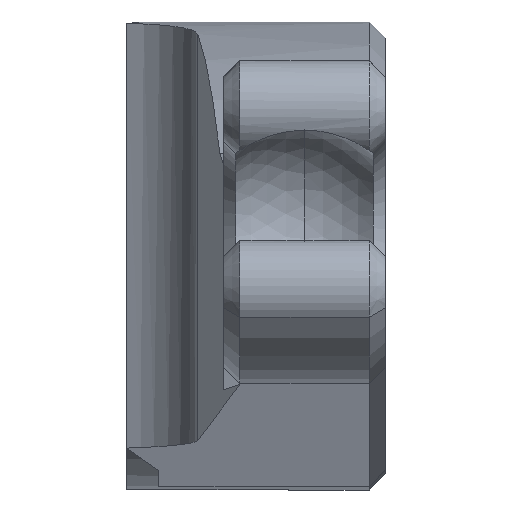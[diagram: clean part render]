
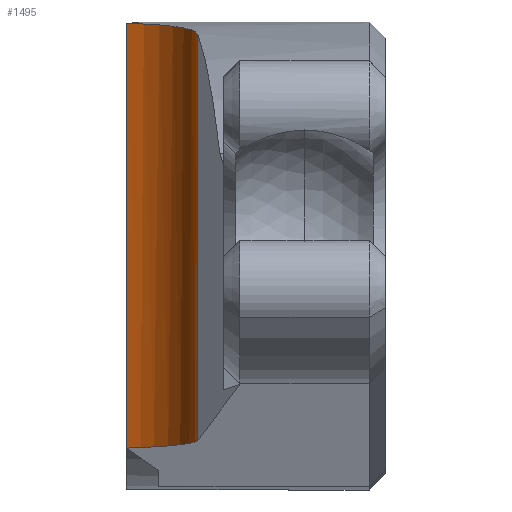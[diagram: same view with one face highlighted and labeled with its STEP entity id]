
A CAD part, front view. The second image highlights one B-rep face of the part: STEP entity #1495.
In plain terms, the highlighted cylindrical face has radius 3.518 mm (diameter 7.036 mm), a partial arc.
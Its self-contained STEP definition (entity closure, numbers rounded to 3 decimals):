
#11 = CARTESIAN_POINT ( 'NONE',  ( 9.993, -122.252, -3.573 ) ) ;
#21 = EDGE_CURVE ( 'NONE', #1631, #30, #1093, .T. ) ;
#30 = VERTEX_POINT ( 'NONE', #247 ) ;
#155 = CARTESIAN_POINT ( 'NONE',  ( 10.734, -123.144, -3.66 ) ) ;
#174 = EDGE_CURVE ( 'NONE', #30, #1413, #375, .T. ) ;
#181 = CARTESIAN_POINT ( 'NONE',  ( 10.954, -123.591, -3.71 ) ) ;
#199 = LINE ( 'NONE', #479, #1401 ) ;
#247 = CARTESIAN_POINT ( 'NONE',  ( 9., -121.652, -3.527 ) ) ;
#259 = CARTESIAN_POINT ( 'NONE',  ( 9., -121.652, -16.647 ) ) ;
#284 = CARTESIAN_POINT ( 'NONE',  ( 10.646, -123.001, -3.645 ) ) ;
#375 = B_SPLINE_CURVE_WITH_KNOTS ( 'NONE', 3,
 ( #1678, #1111, #844, #11, #1395, #1388, #1275, #284, #155, #702, #181, #1404, #1268, #712 ),
 .UNSPECIFIED., .F., .F.,
 ( 4, 2, 2, 2, 2, 2, 4 ),
 ( 0., 0.001, 0.001, 0.002, 0.002, 0.003, 0.004 ),
 .UNSPECIFIED. ) ;
#379 = CARTESIAN_POINT ( 'NONE',  ( 9., -121.652, -16.647 ) ) ;
#421 = CARTESIAN_POINT ( 'NONE',  ( 7.691, -124.918, -3.422 ) ) ;
#442 = DIRECTION ( 'NONE',  ( 0., 0., 1. ) ) ;
#461 = ORIENTED_EDGE ( 'NONE', *, *, #21, .F. ) ;
#479 = CARTESIAN_POINT ( 'NONE',  ( 11.204, -124.719, -3.422 ) ) ;
#516 = ORIENTED_EDGE ( 'NONE', *, *, #174, .F. ) ;
#696 = ORIENTED_EDGE ( 'NONE', *, *, #763, .T. ) ;
#702 = CARTESIAN_POINT ( 'NONE',  ( 10.888, -123.44, -3.693 ) ) ;
#712 = CARTESIAN_POINT ( 'NONE',  ( 11.204, -124.719, -3.86 ) ) ;
#763 = EDGE_CURVE ( 'NONE', #957, #1413, #199, .T. ) ;
#787 =( BOUNDED_CURVE ( )  B_SPLINE_CURVE ( 3, ( #1475, #1061, #1623, #379 ),
 .UNSPECIFIED., .F., .T. ) 
 B_SPLINE_CURVE_WITH_KNOTS ( ( 4, 4 ),
 ( 1.627, 2.76 ),
 .UNSPECIFIED. ) 
 CURVE ( )  GEOMETRIC_REPRESENTATION_ITEM ( )  RATIONAL_B_SPLINE_CURVE ( ( 1., 0.896, 0.896, 1. ) ) 
 REPRESENTATION_ITEM ( '' )  );
#800 = CARTESIAN_POINT ( 'NONE',  ( 11.204, -124.719, -3.86 ) ) ;
#840 = VECTOR ( 'NONE', #1479, 1000. ) ;
#844 = CARTESIAN_POINT ( 'NONE',  ( 9.599, -121.943, -3.548 ) ) ;
#896 = EDGE_CURVE ( 'NONE', #957, #1631, #787, .T. ) ;
#905 = ORIENTED_EDGE ( 'NONE', *, *, #896, .F. ) ;
#957 = VERTEX_POINT ( 'NONE', #1576 ) ;
#980 = EDGE_LOOP ( 'NONE', ( #905, #696, #516, #461 ) ) ;
#1061 = CARTESIAN_POINT ( 'NONE',  ( 11.124, -123.316, -16.521 ) ) ;
#1064 = CYLINDRICAL_SURFACE ( 'NONE', #1357, 3.518 ) ;
#1093 = LINE ( 'NONE', #1380, #840 ) ;
#1111 = CARTESIAN_POINT ( 'NONE',  ( 9.312, -121.777, -3.535 ) ) ;
#1160 = DIRECTION ( 'NONE',  ( 0., 0., 1. ) ) ;
#1268 = CARTESIAN_POINT ( 'NONE',  ( 11.185, -124.386, -3.811 ) ) ;
#1275 = CARTESIAN_POINT ( 'NONE',  ( 10.453, -122.732, -3.617 ) ) ;
#1357 = AXIS2_PLACEMENT_3D ( 'NONE', #421, #442, #1590 ) ;
#1380 = CARTESIAN_POINT ( 'NONE',  ( 9., -121.652, -3.422 ) ) ;
#1388 = CARTESIAN_POINT ( 'NONE',  ( 10.347, -122.605, -3.605 ) ) ;
#1395 = CARTESIAN_POINT ( 'NONE',  ( 10.118, -122.365, -3.583 ) ) ;
#1401 = VECTOR ( 'NONE', #1160, 1000. ) ;
#1404 = CARTESIAN_POINT ( 'NONE',  ( 11.118, -124.057, -3.767 ) ) ;
#1413 = VERTEX_POINT ( 'NONE', #800 ) ;
#1475 = CARTESIAN_POINT ( 'NONE',  ( 11.204, -124.719, -16.415 ) ) ;
#1479 = DIRECTION ( 'NONE',  ( 0., 0., 1. ) ) ;
#1495 = ADVANCED_FACE ( 'NONE', ( #1660 ), #1064, .F. ) ;
#1576 = CARTESIAN_POINT ( 'NONE',  ( 11.204, -124.719, -16.415 ) ) ;
#1590 = DIRECTION ( 'NONE',  ( -1., 0., 0. ) ) ;
#1623 = CARTESIAN_POINT ( 'NONE',  ( 10.304, -122.175, -16.608 ) ) ;
#1631 = VERTEX_POINT ( 'NONE', #259 ) ;
#1660 = FACE_OUTER_BOUND ( 'NONE', #980, .T. ) ;
#1678 = CARTESIAN_POINT ( 'NONE',  ( 9., -121.652, -3.527 ) ) ;
